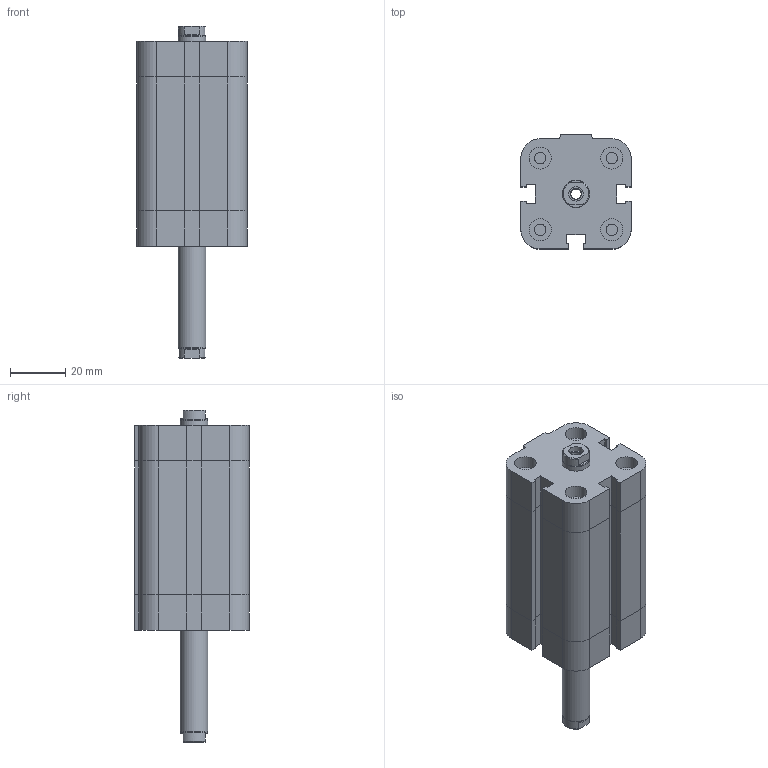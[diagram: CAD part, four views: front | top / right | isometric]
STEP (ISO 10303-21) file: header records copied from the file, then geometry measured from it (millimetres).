
FILE_DESCRIPTION((''),'2;1');
FILE_NAME('I:\Area Tecnica\Disegni\VARIE-3D\Componenti\EUROPE\15##_###_####_06_#\1581_25_0035_06_1.iam.stp','2009-04-20T15:09:12',(''),(''),'Autodesk Inventor 2009','Autodesk Inventor 2009','');
FILE_SCHEMA(('AUTOMOTIVE_DESIGN { 1 0 10303 214 1 1 1 1 }'));
Length unit declared in the file: millimetre
Products named in the file (3): 1581_25_0035_06_1; 1581_25_0035_03_1_C; 1561_25_0035_06_1_S
Assembly tree (2 placements, depth 2):
  1581_25_0035_06_1
    1581_25_0035_03_1_C
    1561_25_0035_06_1_S
Bounding box: 40 x 41.5 x 120.5 mm (x, y, z)
Volume: 108386.1 mm3; surface area: 27474.9 mm2
Topology: 2 solids, 2 shells, 175 faces, 382 edges, 233 vertices
Faces by surface type: plane 114, bspline 30, cylinder 25, cone 6
Full cylindrical faces by diameter (mm): 4.134 x5, 5.2 x1, 8 x4, 9.8 x2, 10 x1
Entity records: 4805 total; most frequent: CARTESIAN_POINT 1042, DIRECTION 712, ORIENTED_EDGE 680, EDGE_CURVE 340, VECTOR 252, LINE 252, AXIS2_PLACEMENT_3D 230, EDGE_LOOP 230
